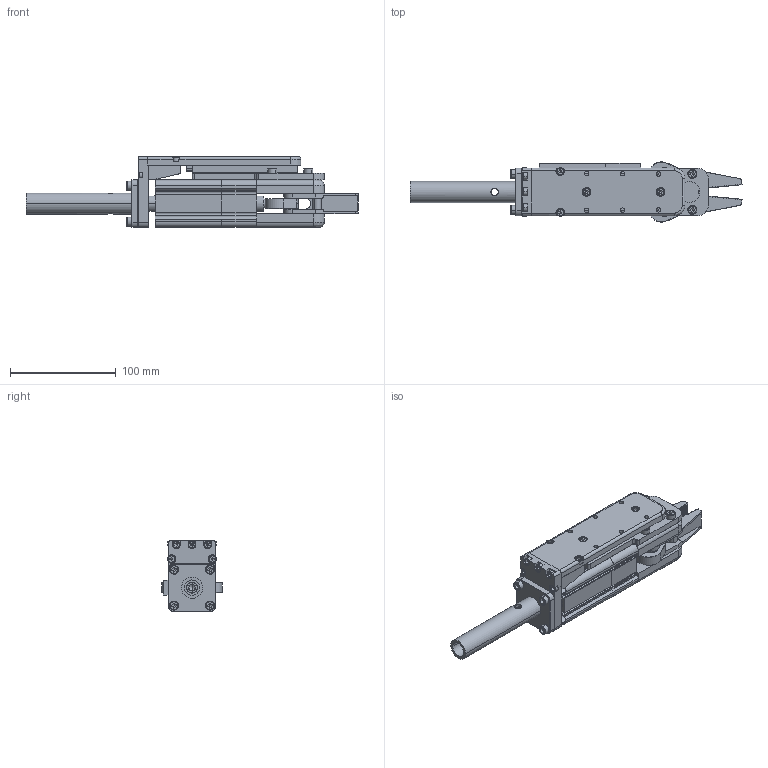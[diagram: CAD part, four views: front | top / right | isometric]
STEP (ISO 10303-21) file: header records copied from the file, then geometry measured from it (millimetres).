
FILE_DESCRIPTION (( 'STEP AP214' ), '1' );
FILE_NAME ('GRP32A-30.STEP', '2019-11-19T09:26:21', ( '微软用户' ), ( '微软中国' ), 'SwSTEP 2.0', 'SolidWorks 2016', '' );
FILE_SCHEMA (( 'AUTOMOTIVE_DESIGN' ));
Length unit declared in the file: millimetre
Products named in the file (1): GRP32A-30
Bounding box: 313.93 x 56.97 x 67 mm (x, y, z)
Volume: 356981.3 mm3; surface area: 181325.6 mm2
Topology: 51 solids, 51 shells, 1790 faces, 4519 edges, 2819 vertices
Faces by surface type: plane 865, cylinder 536, cone 309, bspline 52, sphere 28
Entity records: 74404 total; most frequent: CARTESIAN_POINT 10979, DIRECTION 9345, ORIENTED_EDGE 8730, EDGE_CURVE 4365, AXIS2_PLACEMENT_3D 3377, VERTEX_POINT 2767, VECTOR 2591, LINE 2591
